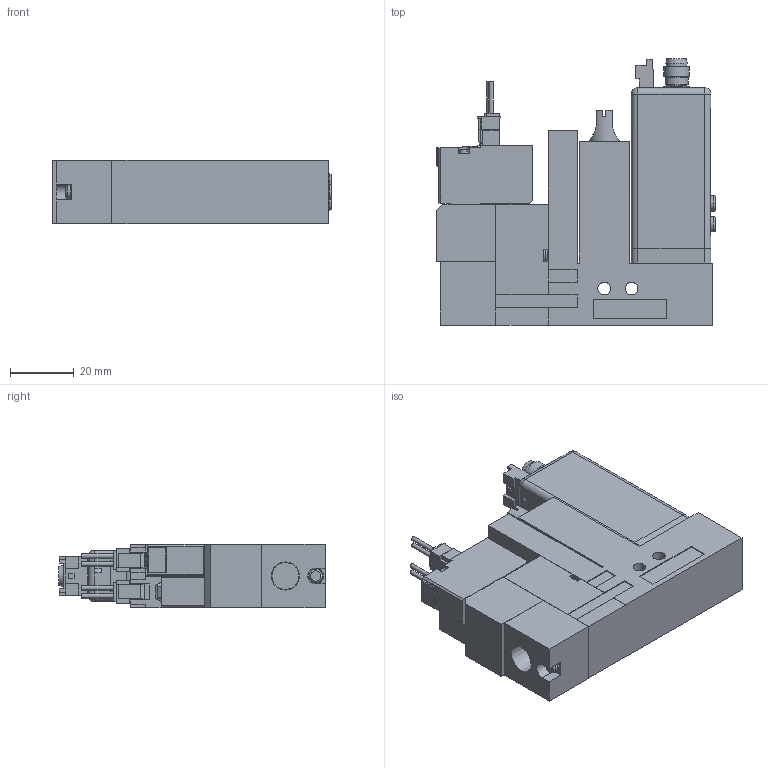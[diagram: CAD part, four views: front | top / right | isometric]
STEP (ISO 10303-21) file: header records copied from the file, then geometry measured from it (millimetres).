
FILE_DESCRIPTION(('STEP AP203'),'1');
FILE_NAME('22_22PL5ALR.stp','2025-06-05T07:33:05',(' '),(' '),'Spatial InterOp 3D',' ',' ');
FILE_SCHEMA(('CONFIG_CONTROL_DESIGN'));
Length unit declared in the file: millimetre
Products named in the file (5): BMC22S※※※※22_22PL5ALR; Solenoid valve A; Unit L; Base SR10R; MVS-202
Assembly tree (4 placements, depth 2):
  BMC22S※※※※22_22PL5ALR
    Solenoid valve A
    Unit L
    Base SR10R
    MVS-202
Bounding box: 87.5 x 83.6 x 20 mm (x, y, z)
Volume: 96977.2 mm3; surface area: 28989.5 mm2
Topology: 4 solids, 8 shells, 771 faces, 1997 edges, 1304 vertices
Faces by surface type: plane 652, cylinder 94, cone 15, torus 6, sphere 4
Full cylindrical faces by diameter (mm): 1 x4, 1.4 x4, 1.5 x1, 2.5 x1, 3 x4, 3.5 x4, 3.6 x1, 4 x2, 4.134 x1, 4.5 x4, 4.8 x3, 5 x2, 5.8 x2, 6 x2, 6.5 x3, 7 x1, 7.2 x1, 7.9 x1, 8 x2
Entity records: 23133 total; most frequent: CARTESIAN_POINT 4143, ORIENTED_EDGE 3832, DIRECTION 3702, EDGE_CURVE 1916, LINE 1650, VECTOR 1650, VERTEX_POINT 1292, AXIS2_PLACEMENT_3D 1026
